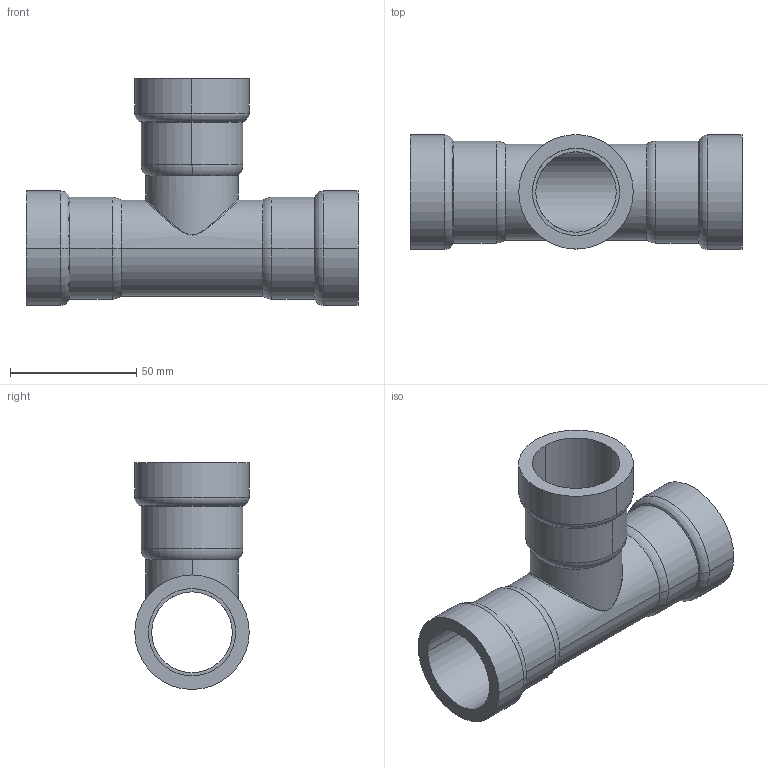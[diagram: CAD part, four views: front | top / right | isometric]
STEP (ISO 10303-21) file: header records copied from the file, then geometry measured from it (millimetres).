
FILE_DESCRIPTION(('Creo Elements/Direct Modeling STEP Export'),'2;1');
FILE_NAME('C9414_1.stp','2020-07-14T16:33:17',(''),(''),'PTC Creo Elements/Direct Modeling STEP processor for AP214 (Solid Model)','PTC Creo Elements/Direct Modeling 19.0C 15-Aug-2015 (C) Parametric Technology GmbH','');
FILE_SCHEMA(('AUTOMOTIVE_DESIGN { 1 0 10303 214 1 1 1 1 }'));
Length unit declared in the file: millimetre
Products named in the file (2): 9414_1
Assembly tree (1 placements, depth 2):
  9414_1
    9414_1
Bounding box: 131.66 x 45.4 x 90 mm (x, y, z)
Volume: 74450.2 mm3; surface area: 44247.8 mm2
Topology: 1 solids, 1 shells, 54 faces, 122 edges, 74 vertices
Faces by surface type: cylinder 26, torus 12, plane 6, cone 6, bspline 4
Entity records: 6890 total; most frequent: CARTESIAN_POINT 5765, ORIENTED_EDGE 244, DIRECTION 214, EDGE_CURVE 122, AXIS2_PLACEMENT_3D 91, VERTEX_POINT 74, EDGE_LOOP 62, FACE_OUTER_BOUND 54
